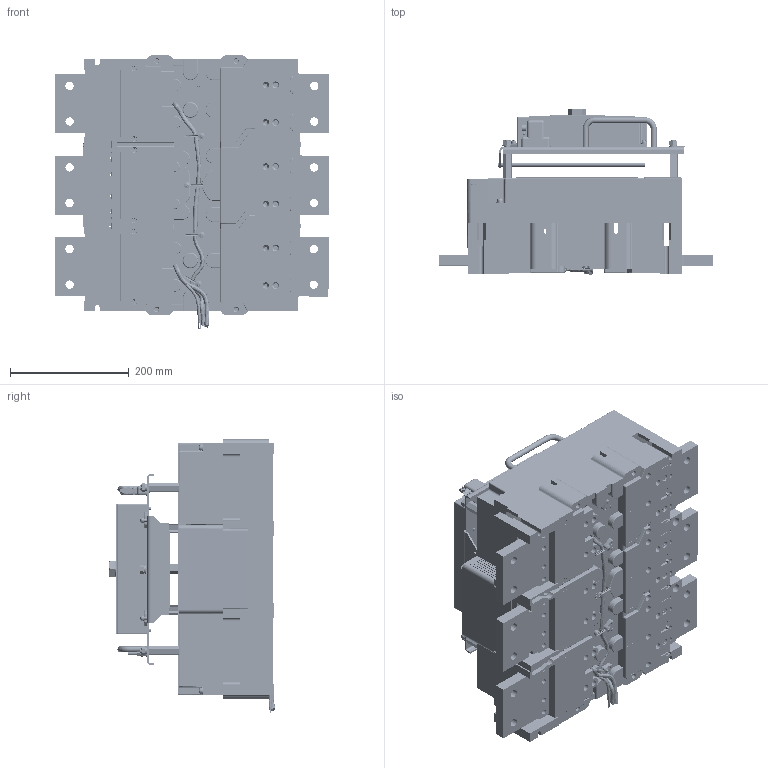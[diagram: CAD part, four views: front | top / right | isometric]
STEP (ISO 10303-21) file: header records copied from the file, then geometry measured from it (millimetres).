
FILE_DESCRIPTION (( 'STEP AP203' ), '1' );
FILE_NAME ('ÂÀ55-43 (1600À) ñ ÝÌÏ.STEP', '2014-12-04T07:23:24', ( 'admin' ), ( '' ), 'SwSTEP 2.0', 'SolidWorks 2007', '' );
FILE_SCHEMA (( 'CONFIG_CONTROL_DESIGN' ));
Products named in the file (1): ÂÀ55-43 (1600À) ñ ÝÌÏ
Bounding box: 462.82 x 280.47 x 460.79 mm (x, y, z)
Surface area: 2127169.9 mm2 (no closed solid volume)
Topology: 0 solids, 495 shells, 3300 faces, 18431 edges, 15249 vertices
Faces by surface type: plane 1817, cylinder 1035, bspline 159, cone 125, torus 125, sphere 39
Entity records: 209136 total; most frequent: CARTESIAN_POINT 73355, DIRECTION 25836, ORIENTED_EDGE 24086, EDGE_CURVE 18402, VERTEX_POINT 15249, VECTOR 11620, LINE 11620, AXIS2_PLACEMENT_3D 7108
